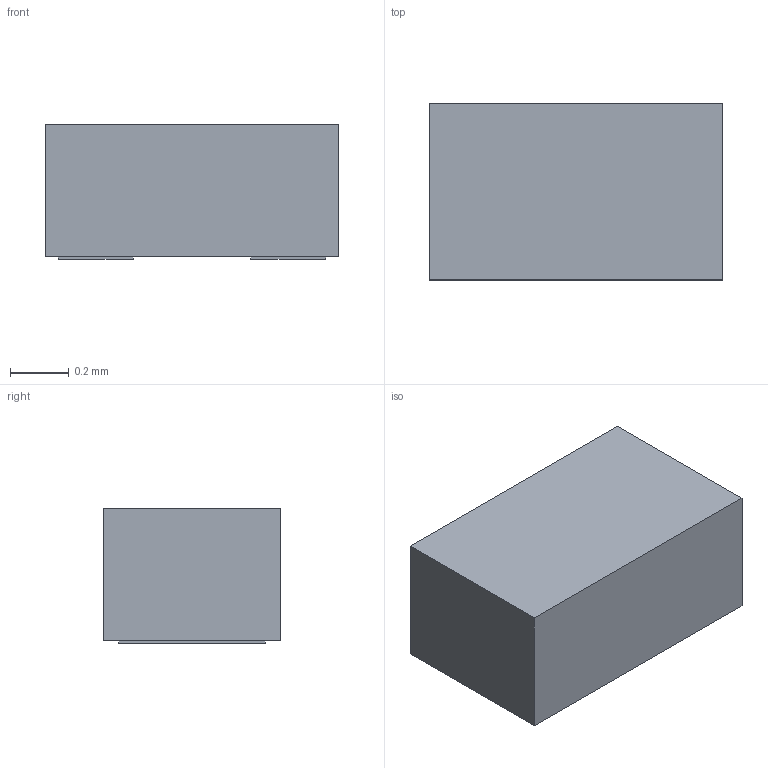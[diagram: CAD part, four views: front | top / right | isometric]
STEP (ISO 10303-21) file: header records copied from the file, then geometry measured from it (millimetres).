
FILE_DESCRIPTION(/* description */ ('Unknown'),/* implementation_level */ '2;1');
FILE_NAME(/* name */ 'DFN1006T-3L',/* time_stamp */ '2024-06-14T15:28:18+08:00',/* author */ ('Unknown'),/* organization */ ('Unknown'),/* preprocessor_version */ 'ST-DEVELOPER v18.104',/* originating_system */ 'Solid Edge',/* authorisation */ 'Unknown');
FILE_SCHEMA (('AUTOMOTIVE_DESIGN {1 0 10303 214 3 1 1}'));
Length unit declared in the file: millimetre
Products named in the file (1): DFN1006T-3L
Bounding box: 1 x 0.6 x 0.46 mm (x, y, z)
Volume: 0.3 mm3; surface area: 3.1 mm2
Topology: 4 solids, 4 shells, 24 faces, 48 edges, 32 vertices
Faces by surface type: plane 24
Entity records: 658 total; most frequent: CARTESIAN_POINT 105, DIRECTION 98, ORIENTED_EDGE 96, EDGE_CURVE 48, LINE 48, VECTOR 48, VERTEX_POINT 32, AXIS2_PLACEMENT_3D 25
